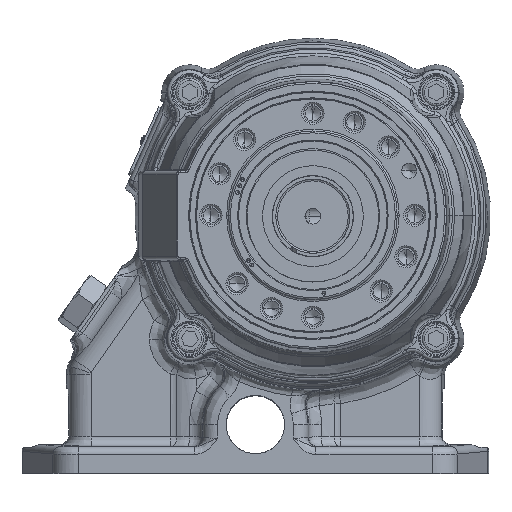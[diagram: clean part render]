
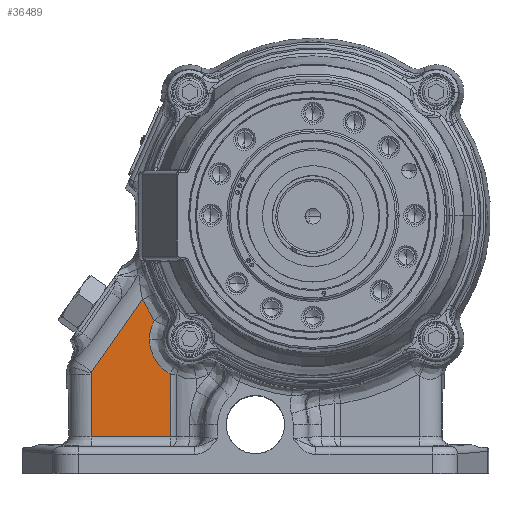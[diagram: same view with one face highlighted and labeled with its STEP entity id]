
A CAD part, top view. The second image highlights one B-rep face of the part: STEP entity #36489.
In plain terms, the highlighted planar face has unit normal (0, 0, 1).
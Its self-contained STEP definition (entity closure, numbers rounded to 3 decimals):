
#155 = EDGE_CURVE ( 'NONE', #63429, #22358, #95602, .T. ) ;
#2040 = CARTESIAN_POINT ( 'NONE',  ( 43.95, 63.025, 195.262 ) ) ;
#6177 = CARTESIAN_POINT ( 'NONE',  ( 50.347, 43.478, 195.262 ) ) ;
#6759 = CARTESIAN_POINT ( 'NONE',  ( 44.084, 51.787, 195.262 ) ) ;
#12878 = ORIENTED_EDGE ( 'NONE', *, *, #34310, .T. ) ;
#13413 = CARTESIAN_POINT ( 'NONE',  ( 45.103, 65.563, 195.262 ) ) ;
#14405 = CARTESIAN_POINT ( 'NONE',  ( 18.294, 43.268, 195.262 ) ) ;
#14568 = CARTESIAN_POINT ( 'NONE',  ( 48.387, 45.135, 195.262 ) ) ;
#14983 = CARTESIAN_POINT ( 'NONE',  ( 51.948, 110.284, 195.262 ) ) ;
#15155 = CARTESIAN_POINT ( 'NONE',  ( 48.419, 45.104, 195.262 ) ) ;
#15756 = CARTESIAN_POINT ( 'NONE',  ( 49.324, 44.289, 195.262 ) ) ;
#16334 = CARTESIAN_POINT ( 'NONE',  ( 51.29, 42.871, 195.262 ) ) ;
#16529 = EDGE_CURVE ( 'NONE', #69976, #103340, #65807, .T. ) ;
#17240 = ORIENTED_EDGE ( 'NONE', *, *, #73005, .T. ) ;
#22358 = VERTEX_POINT ( 'NONE', #33687 ) ;
#22655 = ORIENTED_EDGE ( 'NONE', *, *, #155, .T. ) ;
#23581 = CARTESIAN_POINT ( 'NONE',  ( 18.077, 42.397, 195.262 ) ) ;
#23865 = CARTESIAN_POINT ( 'NONE',  ( 45.103, 65.563, 195.262 ) ) ;
#23918 = ORIENTED_EDGE ( 'NONE', *, *, #45586, .T. ) ;
#25354 = CARTESIAN_POINT ( 'NONE',  ( 43.74, 52.901, 195.262 ) ) ;
#27302 = CARTESIAN_POINT ( 'NONE',  ( 43.106, 57.525, 195.262 ) ) ;
#30154 = CARTESIAN_POINT ( 'NONE',  ( 51.948, 15.663, 195.262 ) ) ;
#30371 = CARTESIAN_POINT ( 'NONE',  ( 43.714, 52.994, 195.262 ) ) ;
#30863 = CARTESIAN_POINT ( 'NONE',  ( 18.159, 42.931, 195.262 ) ) ;
#31467 = B_SPLINE_CURVE_WITH_KNOTS ( 'NONE', 3,
 ( #113607, #113022, #112423, #2040, #75252, #13413 ),
 .UNSPECIFIED., .F., .F.,
 ( 4, 2, 4 ),
 ( 0., 0.5, 1. ),
 .UNSPECIFIED. ) ;
#33687 = CARTESIAN_POINT ( 'NONE',  ( 18.398, 43.416, 195.262 ) ) ;
#34310 = EDGE_CURVE ( 'NONE', #111845, #69187, #70779, .T. ) ;
#34520 = AXIS2_PLACEMENT_3D ( 'NONE', #37530, #117949, #45936 ) ;
#36489 = ADVANCED_FACE ( 'NONE', ( #109534 ), #91548, .T. ) ;
#37530 = CARTESIAN_POINT ( 'NONE',  ( 113.041, 110.284, 195.262 ) ) ;
#38793 = CARTESIAN_POINT ( 'NONE',  ( 18.077, 110.284, 195.262 ) ) ;
#39884 = B_SPLINE_CURVE_WITH_KNOTS ( 'NONE', 3,
 ( #23865, #61640, #70655, #97037 ),
 .UNSPECIFIED., .F., .F.,
 ( 4, 4 ),
 ( 0., 1. ),
 .UNSPECIFIED. ) ;
#41122 = VECTOR ( 'NONE', #88412, 1000. ) ;
#41713 = VECTOR ( 'NONE', #44363, 1000. ) ;
#42192 = B_SPLINE_CURVE_WITH_KNOTS ( 'NONE', 3,
 ( #53372, #96593, #14405, #69619 ),
 .UNSPECIFIED., .F., .F.,
 ( 4, 4 ),
 ( 0., 1. ),
 .UNSPECIFIED. ) ;
#42783 = CARTESIAN_POINT ( 'NONE',  ( 48.831, 44.72, 195.262 ) ) ;
#44363 = DIRECTION ( 'NONE',  ( 0., 1., 0. ) ) ;
#45586 = EDGE_CURVE ( 'NONE', #110826, #90575, #31467, .T. ) ;
#45936 = DIRECTION ( 'NONE',  ( 0., 1., 0. ) ) ;
#48631 = EDGE_CURVE ( 'NONE', #101354, #103340, #89614, .T. ) ;
#50254 = LINE ( 'NONE', #76669, #111385 ) ;
#51177 = CARTESIAN_POINT ( 'NONE',  ( 47.229, 46.252, 195.262 ) ) ;
#51807 = CARTESIAN_POINT ( 'NONE',  ( 40.067, 74.362, 195.262 ) ) ;
#52598 = CARTESIAN_POINT ( 'NONE',  ( 18.077, 42.397, 195.262 ) ) ;
#53372 = CARTESIAN_POINT ( 'NONE',  ( 18.159, 42.931, 195.262 ) ) ;
#59293 = ORIENTED_EDGE ( 'NONE', *, *, #88995, .T. ) ;
#61640 = CARTESIAN_POINT ( 'NONE',  ( 43.241, 68.391, 195.262 ) ) ;
#62100 = EDGE_CURVE ( 'NONE', #101354, #22358, #42192, .T. ) ;
#63429 = VERTEX_POINT ( 'NONE', #117673 ) ;
#65026 = CARTESIAN_POINT ( 'NONE',  ( 45.103, 65.563, 195.262 ) ) ;
#65521 = CARTESIAN_POINT ( 'NONE',  ( 43.106, 57.525, 195.262 ) ) ;
#65807 = LINE ( 'NONE', #38793, #95251 ) ;
#66125 = CARTESIAN_POINT ( 'NONE',  ( 43.3, 54.542, 195.262 ) ) ;
#66994 = CARTESIAN_POINT ( 'NONE',  ( 43.701, 53.043, 195.262 ) ) ;
#69187 = VERTEX_POINT ( 'NONE', #79166 ) ;
#69619 = CARTESIAN_POINT ( 'NONE',  ( 18.398, 43.416, 195.262 ) ) ;
#69976 = VERTEX_POINT ( 'NONE', #116621 ) ;
#70375 = CARTESIAN_POINT ( 'NONE',  ( 46.272, 47.467, 195.262 ) ) ;
#70655 = CARTESIAN_POINT ( 'NONE',  ( 41.562, 71.324, 195.262 ) ) ;
#70779 = LINE ( 'NONE', #14983, #41713 ) ;
#70953 = CARTESIAN_POINT ( 'NONE',  ( 45.085, 49.483, 195.262 ) ) ;
#73005 = EDGE_CURVE ( 'NONE', #69187, #110826, #111928, .T. ) ;
#75252 = CARTESIAN_POINT ( 'NONE',  ( 44.447, 64.324, 195.262 ) ) ;
#76669 = CARTESIAN_POINT ( 'NONE',  ( 113.041, 15.663, 195.262 ) ) ;
#79166 = CARTESIAN_POINT ( 'NONE',  ( 51.948, 42.507, 195.262 ) ) ;
#79981 = CARTESIAN_POINT ( 'NONE',  ( 43.876, 52.433, 195.262 ) ) ;
#80563 = CARTESIAN_POINT ( 'NONE',  ( 18.104, 42.757, 195.262 ) ) ;
#81838 = ORIENTED_EDGE ( 'NONE', *, *, #116762, .T. ) ;
#84726 = CARTESIAN_POINT ( 'NONE',  ( 43.106, 56.02, 195.262 ) ) ;
#84930 = EDGE_LOOP ( 'NONE', ( #116028, #59293, #12878, #17240, #23918, #81838, #22655, #118704, #118520 ) ) ;
#88412 = DIRECTION ( 'NONE',  ( -0.574, -0.819, 0. ) ) ;
#88973 = CARTESIAN_POINT ( 'NONE',  ( 44.564, 50.522, 195.262 ) ) ;
#88995 = EDGE_CURVE ( 'NONE', #69976, #111845, #50254, .T. ) ;
#89614 = B_SPLINE_CURVE_WITH_KNOTS ( 'NONE', 3,
 ( #98547, #80563, #115964, #23581 ),
 .UNSPECIFIED., .F., .F.,
 ( 4, 4 ),
 ( 0., 1. ),
 .UNSPECIFIED. ) ;
#90575 = VERTEX_POINT ( 'NONE', #65026 ) ;
#91548 = PLANE ( 'NONE',  #34520 ) ;
#95251 = VECTOR ( 'NONE', #102374, 1000. ) ;
#95602 = LINE ( 'NONE', #51807, #41122 ) ;
#96593 = CARTESIAN_POINT ( 'NONE',  ( 18.214, 43.104, 195.262 ) ) ;
#96753 = CARTESIAN_POINT ( 'NONE',  ( 48.487, 45.039, 195.262 ) ) ;
#97037 = CARTESIAN_POINT ( 'NONE',  ( 40.067, 74.362, 195.262 ) ) ;
#97355 = CARTESIAN_POINT ( 'NONE',  ( 51.948, 42.507, 195.262 ) ) ;
#98547 = CARTESIAN_POINT ( 'NONE',  ( 18.159, 42.931, 195.262 ) ) ;
#101354 = VERTEX_POINT ( 'NONE', #30863 ) ;
#102374 = DIRECTION ( 'NONE',  ( 0., 1., 0. ) ) ;
#103340 = VERTEX_POINT ( 'NONE', #52598 ) ;
#106946 = CARTESIAN_POINT ( 'NONE',  ( 48.59, 44.942, 195.262 ) ) ;
#107522 = CARTESIAN_POINT ( 'NONE',  ( 43.78, 52.76, 195.262 ) ) ;
#109534 = FACE_OUTER_BOUND ( 'NONE', #84930, .T. ) ;
#110826 = VERTEX_POINT ( 'NONE', #27302 ) ;
#111385 = VECTOR ( 'NONE', #114414, 1000. ) ;
#111845 = VERTEX_POINT ( 'NONE', #30154 ) ;
#111928 = B_SPLINE_CURVE_WITH_KNOTS ( 'NONE', 3,
 ( #97355, #16334, #6177, #15756, #42783, #106946, #96753, #15155, #14568, #51177, #70375, #70953, #88973, #6759, #79981, #107522, #25354, #30371, #66994, #66125, #84726, #65521 ),
 .UNSPECIFIED., .F., .F.,
 ( 4, 1, 1, 1, 1, 2, 2, 2, 1, 1, 1, 1, 2, 2, 4 ),
 ( 0., 0.125, 0.187, 0.219, 0.234, 0.242, 0.25, 0.5, 0.625, 0.687, 0.719, 0.734, 0.742, 0.75, 1. ),
 .UNSPECIFIED. ) ;
#112423 = CARTESIAN_POINT ( 'NONE',  ( 43.275, 60.306, 195.262 ) ) ;
#113022 = CARTESIAN_POINT ( 'NONE',  ( 43.106, 58.926, 195.262 ) ) ;
#113607 = CARTESIAN_POINT ( 'NONE',  ( 43.106, 57.525, 195.262 ) ) ;
#114414 = DIRECTION ( 'NONE',  ( 1., 0., 0. ) ) ;
#115964 = CARTESIAN_POINT ( 'NONE',  ( 18.077, 42.579, 195.262 ) ) ;
#116028 = ORIENTED_EDGE ( 'NONE', *, *, #16529, .F. ) ;
#116621 = CARTESIAN_POINT ( 'NONE',  ( 18.077, 15.663, 195.262 ) ) ;
#116762 = EDGE_CURVE ( 'NONE', #90575, #63429, #39884, .T. ) ;
#117673 = CARTESIAN_POINT ( 'NONE',  ( 40.067, 74.362, 195.262 ) ) ;
#117949 = DIRECTION ( 'NONE',  ( 0., 0., 1. ) ) ;
#118520 = ORIENTED_EDGE ( 'NONE', *, *, #48631, .T. ) ;
#118704 = ORIENTED_EDGE ( 'NONE', *, *, #62100, .F. ) ;
